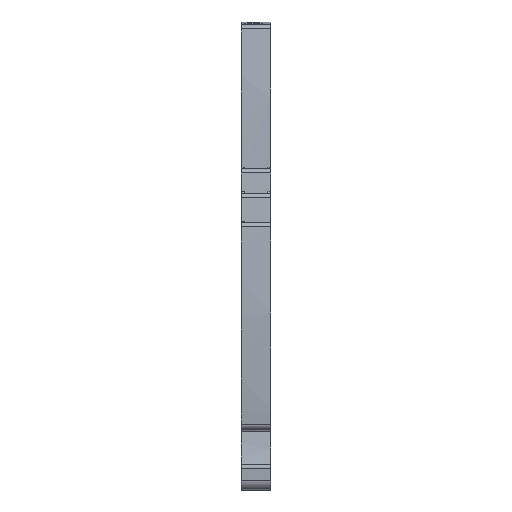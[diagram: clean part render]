
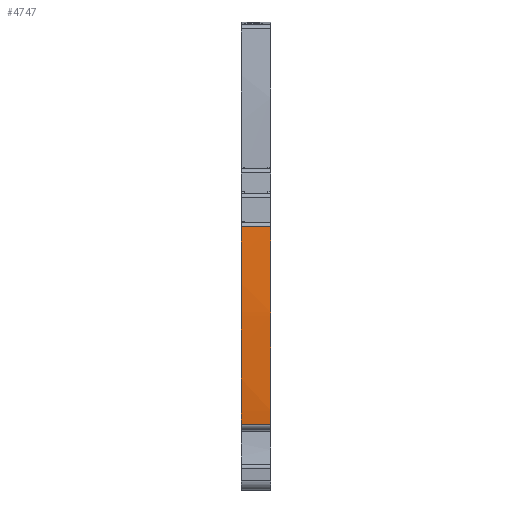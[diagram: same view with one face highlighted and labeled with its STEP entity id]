
A CAD part, front view. The second image highlights one B-rep face of the part: STEP entity #4747.
In plain terms, the highlighted cylindrical face has radius 202 mm (diameter 404 mm), a partial arc.
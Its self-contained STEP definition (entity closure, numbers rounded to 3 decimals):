
#4700=AXIS2_PLACEMENT_3D('Cylinder Axis2P3D',#4697,#4698,#4699) ;
#4704=AXIS2_PLACEMENT_3D('Circle Axis2P3D',#4702,#4703,$) ;
#4713=AXIS2_PLACEMENT_3D('Circle Axis2P3D',#4711,#4712,$) ;
#4720=AXIS2_PLACEMENT_3D('Circle Axis2P3D',#4718,#4719,$) ;
#4732=AXIS2_PLACEMENT_3D('Circle Axis2P3D',#4730,#4731,$) ;
#424=CARTESIAN_POINT('Vertex',(6.,0.609,53.828)) ;
#428=CARTESIAN_POINT('Control Point',(6.,0.609,53.828)) ;
#429=CARTESIAN_POINT('Control Point',(6.,0.159,48.047)) ;
#430=CARTESIAN_POINT('Control Point',(6.,-0.042,42.248)) ;
#431=CARTESIAN_POINT('Control Point',(6.,0.007,36.45)) ;
#432=CARTESIAN_POINT('Vertex',(6.,0.007,36.45)) ;
#436=CARTESIAN_POINT('Control Point',(6.,0.007,36.45)) ;
#437=CARTESIAN_POINT('Control Point',(6.,0.009,36.183)) ;
#438=CARTESIAN_POINT('Control Point',(6.,0.012,35.917)) ;
#439=CARTESIAN_POINT('Control Point',(6.,0.015,35.65)) ;
#440=CARTESIAN_POINT('Vertex',(6.,0.015,35.65)) ;
#444=CARTESIAN_POINT('Control Point',(6.,0.015,35.65)) ;
#445=CARTESIAN_POINT('Control Point',(6.,0.096,29.169)) ;
#446=CARTESIAN_POINT('Control Point',(6.,0.488,22.693)) ;
#447=CARTESIAN_POINT('Control Point',(6.,1.191,16.25)) ;
#448=CARTESIAN_POINT('Vertex',(6.,1.191,16.25)) ;
#452=CARTESIAN_POINT('Control Point',(6.,1.191,16.25)) ;
#453=CARTESIAN_POINT('Control Point',(6.,1.297,15.275)) ;
#454=CARTESIAN_POINT('Control Point',(6.,1.41,14.301)) ;
#455=CARTESIAN_POINT('Control Point',(6.,1.531,13.327)) ;
#456=CARTESIAN_POINT('Vertex',(6.,1.531,13.327)) ;
#4681=CARTESIAN_POINT('Vertex',(0.,0.609,53.828)) ;
#4684=CARTESIAN_POINT('Line Origine',(2.39,0.609,53.828)) ;
#4697=CARTESIAN_POINT('Axis2P3D Location',(2.55,202.,38.15)) ;
#4702=CARTESIAN_POINT('Axis2P3D Location',(0.,202.,38.15)) ;
#4706=CARTESIAN_POINT('Vertex',(0.,0.007,36.45)) ;
#4708=CARTESIAN_POINT('Vertex',(0.,0.015,35.65)) ;
#4711=CARTESIAN_POINT('Axis2P3D Location',(0.,202.,38.15)) ;
#4715=CARTESIAN_POINT('Vertex',(0.,1.191,16.25)) ;
#4718=CARTESIAN_POINT('Axis2P3D Location',(0.,202.,38.15)) ;
#4722=CARTESIAN_POINT('Vertex',(0.,1.531,13.327)) ;
#4725=CARTESIAN_POINT('Line Origine',(12.39,1.531,13.327)) ;
#4730=CARTESIAN_POINT('Axis2P3D Location',(0.,202.,38.15)) ;
#4685=DIRECTION('Vector Direction',(1.,0.,0.)) ;
#4698=DIRECTION('Axis2P3D Direction',(1.,0.,0.)) ;
#4699=DIRECTION('Axis2P3D XDirection',(0.,-0.997,0.078)) ;
#4703=DIRECTION('Axis2P3D Direction',(1.,0.,0.)) ;
#4712=DIRECTION('Axis2P3D Direction',(1.,0.,0.)) ;
#4719=DIRECTION('Axis2P3D Direction',(1.,0.,0.)) ;
#4726=DIRECTION('Vector Direction',(1.,0.,0.)) ;
#4731=DIRECTION('Axis2P3D Direction',(1.,0.,0.)) ;
#4686=VECTOR('Line Direction',#4685,1.) ;
#4727=VECTOR('Line Direction',#4726,1.) ;
#4736=ORIENTED_EDGE('',*,*,#4710,.T.) ;
#4737=ORIENTED_EDGE('',*,*,#4717,.T.) ;
#4738=ORIENTED_EDGE('',*,*,#4724,.T.) ;
#4739=ORIENTED_EDGE('',*,*,#4729,.F.) ;
#4740=ORIENTED_EDGE('',*,*,#458,.F.) ;
#4741=ORIENTED_EDGE('',*,*,#450,.F.) ;
#4742=ORIENTED_EDGE('',*,*,#442,.F.) ;
#4743=ORIENTED_EDGE('',*,*,#434,.F.) ;
#4744=ORIENTED_EDGE('',*,*,#4688,.T.) ;
#4745=ORIENTED_EDGE('',*,*,#4734,.T.) ;
#4747=ADVANCED_FACE('KLEMME',(#4746),#4701,.T.) ;
#427=B_SPLINE_CURVE_WITH_KNOTS('',3,(#428,#429,#430,#431),.UNSPECIFIED.,.F.,.U.,(4,4),(618.908,636.302),.UNSPECIFIED.) ;
#435=B_SPLINE_CURVE_WITH_KNOTS('',3,(#436,#437,#438,#439),.UNSPECIFIED.,.F.,.U.,(4,4),(636.302,637.102),.UNSPECIFIED.) ;
#443=B_SPLINE_CURVE_WITH_KNOTS('',3,(#444,#445,#446,#447),.UNSPECIFIED.,.F.,.U.,(4,4),(637.102,656.545),.UNSPECIFIED.) ;
#451=B_SPLINE_CURVE_WITH_KNOTS('',3,(#452,#453,#454,#455),.UNSPECIFIED.,.F.,.U.,(4,4),(656.545,659.488),.UNSPECIFIED.) ;
#4705=CIRCLE('generated circle',#4704,202.) ;
#4714=CIRCLE('generated circle',#4713,202.) ;
#4721=CIRCLE('generated circle',#4720,202.) ;
#4733=CIRCLE('generated circle',#4732,202.) ;
#4701=CYLINDRICAL_SURFACE('generated cylinder',#4700,202.) ;
#434=EDGE_CURVE('',#425,#433,#427,.T.) ;
#442=EDGE_CURVE('',#433,#441,#435,.T.) ;
#450=EDGE_CURVE('',#441,#449,#443,.T.) ;
#458=EDGE_CURVE('',#449,#457,#451,.T.) ;
#4688=EDGE_CURVE('',#425,#4682,#4687,.F.) ;
#4710=EDGE_CURVE('',#4707,#4709,#4705,.T.) ;
#4717=EDGE_CURVE('',#4709,#4716,#4714,.T.) ;
#4724=EDGE_CURVE('',#4716,#4723,#4721,.T.) ;
#4729=EDGE_CURVE('',#457,#4723,#4728,.F.) ;
#4734=EDGE_CURVE('',#4682,#4707,#4733,.T.) ;
#4735=EDGE_LOOP('',(#4736,#4737,#4738,#4739,#4740,#4741,#4742,#4743,#4744,#4745)) ;
#4746=FACE_OUTER_BOUND('',#4735,.T.) ;
#4687=LINE('Line',#4684,#4686) ;
#4728=LINE('Line',#4725,#4727) ;
#425=VERTEX_POINT('',#424) ;
#433=VERTEX_POINT('',#432) ;
#441=VERTEX_POINT('',#440) ;
#449=VERTEX_POINT('',#448) ;
#457=VERTEX_POINT('',#456) ;
#4682=VERTEX_POINT('',#4681) ;
#4707=VERTEX_POINT('',#4706) ;
#4709=VERTEX_POINT('',#4708) ;
#4716=VERTEX_POINT('',#4715) ;
#4723=VERTEX_POINT('',#4722) ;
